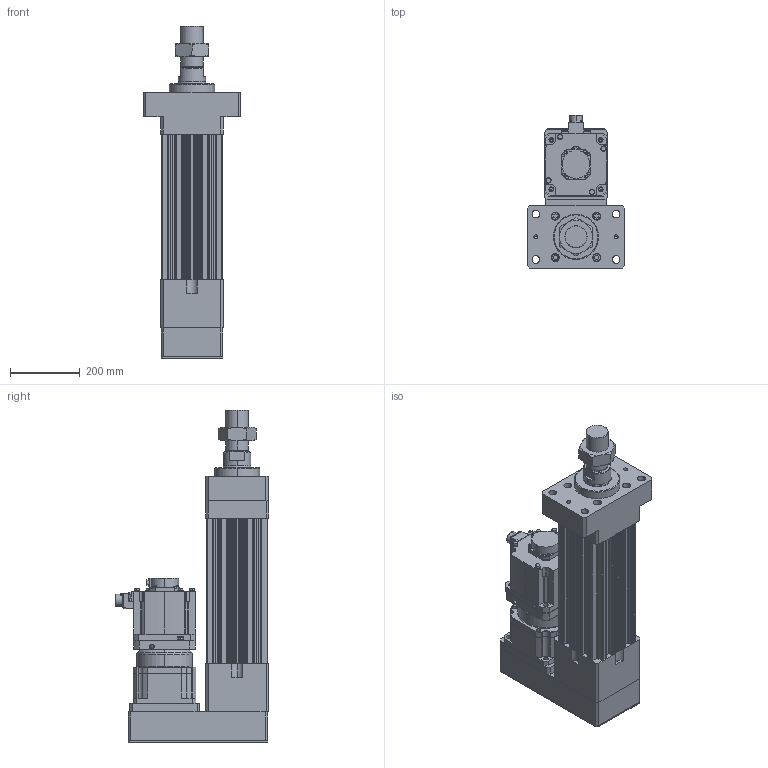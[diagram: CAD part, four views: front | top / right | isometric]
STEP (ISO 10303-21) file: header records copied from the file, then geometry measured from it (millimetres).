
FILE_DESCRIPTION (( 'STEP AP203' ), '1' );
FILE_NAME ('HES180HS-P100-W050G00-M-FMA.STEP', '2023-02-01T07:49:48', ( 'tms' ), ( '' ), 'SwSTEP 2.0', 'SolidWorks 2013', '' );
FILE_SCHEMA (( 'CONFIG_CONTROL_DESIGN' ));
Length unit declared in the file: millimetre
Products named in the file (9): HES180-P100-G180-FMA; P1301600001; HG-SR502; HES180 ROD M ST100; P0403600401; AB1801; M64X2.0P; AB180-003[HG-SR702B]; HES180HS-P100-W050G00-M-FMA
Assembly tree (8 placements, depth 3):
  HES180HS-P100-W050G00-M-FMA
    HES180-P100-G180-FMA
    HES180 ROD M ST100
    M64X2.0P
    AB180-003[HG-SR702B]
      AB1801
      P1301600001
      P0403600401
    HG-SR502
Bounding box: 280 x 438.85 x 952 mm (x, y, z)
Volume: 24684880.2 mm3; surface area: 1971846.6 mm2
Topology: 4 solids, 19 shells, 1431 faces, 3715 edges, 2410 vertices
Faces by surface type: cylinder 663, plane 555, cone 146, bspline 63, torus 4
Entity records: 52578 total; most frequent: CARTESIAN_POINT 15982, DIRECTION 7693, ORIENTED_EDGE 7330, EDGE_CURVE 3689, AXIS2_PLACEMENT_3D 2901, VERTEX_POINT 2410, LINE 1891, VECTOR 1891
